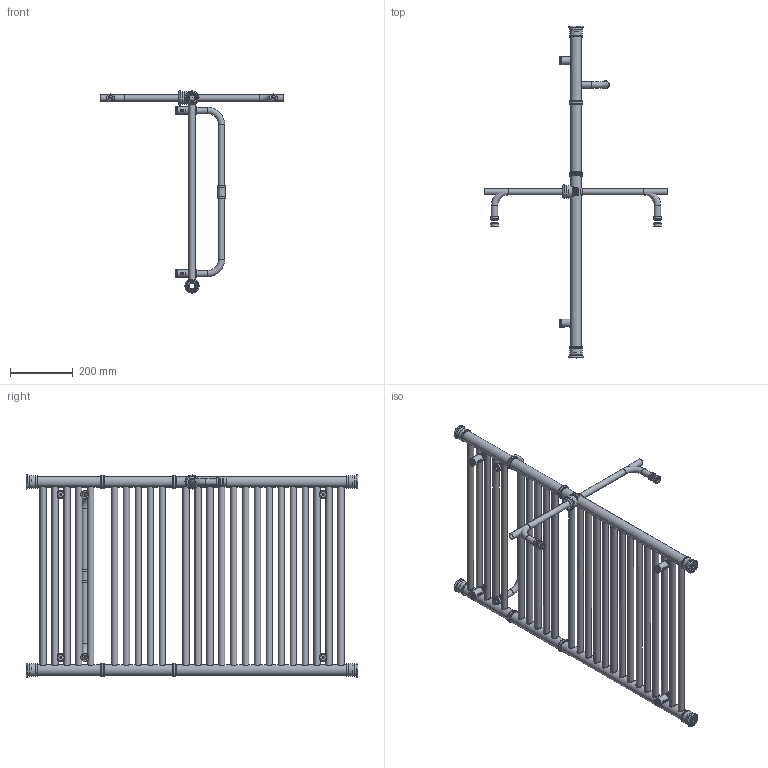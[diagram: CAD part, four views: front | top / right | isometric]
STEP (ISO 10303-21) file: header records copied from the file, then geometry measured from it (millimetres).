
FILE_DESCRIPTION( ( 'Unknown' ), '1' );
FILE_NAME( 'D:/Alplast sp. j/Witryna zespoBu - Projekty/Archiwum/Grzejniki Archiwum/Projekty/DESIGN PROGRAM/RETRO/Retro A4-600.stp', 'Unknown', ( 'Unknown' ), ( 'Unknown' ), 'PSStep 10.1', 'Unknown', ' ' );
FILE_SCHEMA( ( 'AUTOMOTIVE_DESIGN { 1 0 10303 214 1 1 1 1 }' ) );
Length unit declared in the file: millimetre
Products named in the file (55): Assem1; suszarka Retro 600; katurek z wkrêtem do mocowania do  sciany; mocowanie do œciany; Katurek fi 25 v4 ; wkrêt do katurka fi 25 v4; tulejka do mocowania grzejnika v3; mocowanie do grzejnika v3; zaœlepka do mocowania do œciany; detal-v3. par; element do suszarki do mocowania; element do suszarki do mocowania-oa0; tulejka do suszarki ; tulejka do suszarki -oa1; element do suszarki do mocowania ty³; element do suszarki do mocowania ty³-oa2; suszarka 600; kolektor Retro A4; kolektor Retro A4-oa3; Kana³ Prosty Retro 600; Kana³ Prosty Retro 600-oa4; Kana³ Prosty Retro 600-oa5; Kana³ Prosty Retro 600-oa6; Kana³ Prosty Retro 600-oa7; Kana³ Prosty Retro 600-oa8; Kana³ Prosty Retro 600-oa9; Kana³ Prosty Retro 600-oa10; Kana³ Prosty Retro 600-oa11; Kana³ Prosty Retro 600-oa12; Kana³ Prosty Retro 600-oa13; Kana³ Prosty Retro 600-oa14; Kana³ Prosty Retro 600-oa15; Kana³ Prosty Retro 600-oa16; Kana³ Prosty Retro 600-oa17; Kana³ Prosty Retro 600-oa18; Kana³ Prosty Retro 600-oa19; Kana³ Prosty Retro 600-oa20; Kana³ Prosty Retro 600-oa21; Kana³ Prosty Retro 600-oa22; Kana³ Prosty Retro 600-oa23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
Bounding box: 584 x 1058 x 644.93 mm (x, y, z)
Volume: 3016794.2 mm3; surface area: 4643449.2 mm2
Topology: 132 solids, 132 shells, 1084 faces, 2188 edges, 1402 vertices
Faces by surface type: cylinder 458, plane 322, torus 201, cone 84, bspline 12, sphere 7
Full cylindrical faces by diameter (mm): 4.917 x24, 5.9 x6, 6 x27, 6.3 x6, 6.4 x6, 15.5 x6, 17.5 x6, 17.6 x57, 18.631 x8, 20 x57, 20.3 x3, 20.5 x96, 20.6 x6, 21.15 x6, 21.9 x18, 22.8 x3, 24.5 x6, 25 x21, 25.25 x6, 25.3 x6, 32 x8, 32.4 x4, 35 x12, 35.3 x8, 35.5 x8, 39 x16, 41.15 x16
Entity records: 22157 total; most frequent: CARTESIAN_POINT 10737, DIRECTION 1608, ORIENTED_EDGE 910, EDGE_LOOP 892, AXIS2_PLACEMENT_3D 800, FACE_OUTER_BOUND 651, EDGE_CURVE 455, VERTEX_POINT 452
